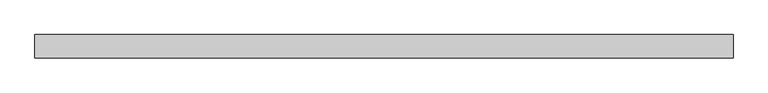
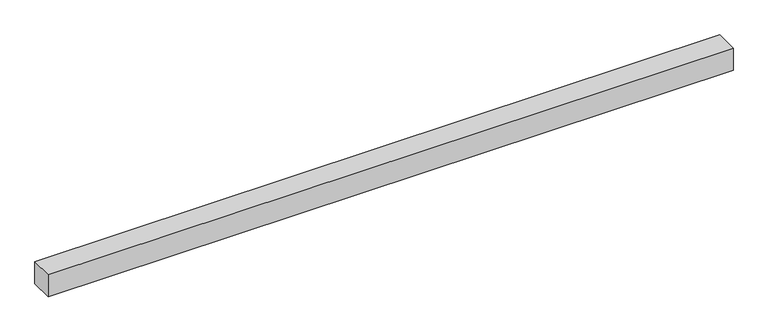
"""IFC4 building model written with IfcOpenShell, lengths in millimetres: light fixture geometry, GENILED_Светильник светодиодный_Line Alum Advanced : Line Alum Advanced 1480x50x50 60Вт 90Ra Опал."""

from ifc_helpers import new_model, si_unit, origin, origin_with_axes, place, context, project, spatial, polyline, outline, extrude, faceted_brep, source, transform, mapped, element, save


def light_fixture_46fbf182(model_context):
    return source(origin(), model_context, "Body", "SolidModel", [
        faceted_brep([(740.0, 25.0, 50.0), (-740.0, 25.0, 50.0), (-740.0, -25.0, 50.0), (740.0, -25.0, 50.0), (738.0, 23.0, 5.0), (738.0, -23.0, 5.0), (-738.0, -23.0, 5.0), (-738.0, 23.0, 5.0), (740.0, 25.0, 0.0), (740.0, -25.0, 0.0), (-740.0, -25.0, 0.0), (-740.0, 25.0, 0.0), (738.0, 23.0, 0.0), (-738.0, 23.0, 0.0), (-738.0, -23.0, 0.0), (738.0, -23.0, 0.0)], [[[0, 1, 2, 3]], [[4, 5, 6, 7]], [[8, 9, 10, 11], [12, 13, 14, 15]], [[1, 0, 8, 11]], [[2, 1, 11, 10]], [[3, 2, 10, 9]], [[0, 3, 9, 8]], [[12, 15, 5, 4]], [[15, 14, 6, 5]], [[14, 13, 7, 6]], [[13, 12, 4, 7]]]),
        extrude(outline(polyline([(738.0, 23.0), (738.0, -23.0), (-738.0, -23.0), (-738.0, 23.0), (738.0, 23.0)])), origin_with_axes(), (0.0, 0.0, 1.0), 5.0),
    ])


if __name__ == "__main__":
    model = new_model("IFC4")
    model_context = context("Model", 3, world=origin())
    ifc_project = project(units=[si_unit("LENGTHUNIT", "METRE", prefix="MILLI")], contexts=[model_context])
    site = spatial("IfcSite", under=ifc_project)
    building = spatial("IfcBuilding", under=site)
    placement = place(None, origin())
    light_fixture_shape = light_fixture_46fbf182(model_context)
    element("IfcLightFixture", 1, ObjectType="GENILED_Светильник светодиодный_Line Alum Advanced : Line Alum Advanced 1480x50x50 60Вт 90Ra Опал", at=placement, inside=building, context=model_context, shape_type="MappedRepresentation", body=[
        mapped(light_fixture_shape, transform((0.0, 0.0, 0.0), x_axis=(1.0, 0.0, 0.0), y_axis=(0.0, 1.0, 0.0), z_axis=(0.0, 0.0, 1.0))),
    ])
    save(model, "model.ifc")
